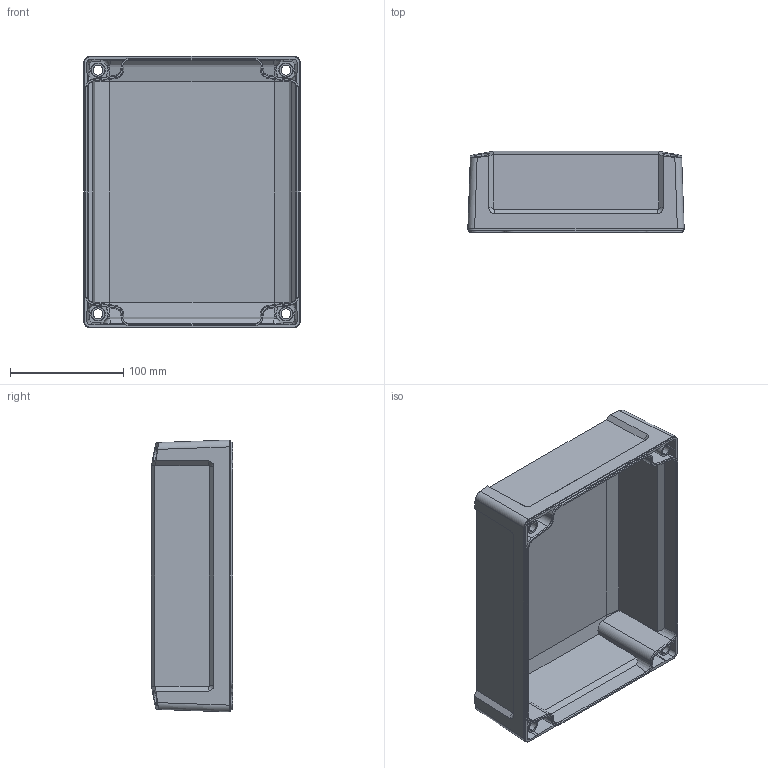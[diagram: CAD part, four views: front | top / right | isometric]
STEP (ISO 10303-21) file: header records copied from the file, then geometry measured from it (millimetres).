
FILE_DESCRIPTION (( 'STEP AP214' ), '1' );
FILE_NAME ('FIBOX TEMPO 2419 H Cover.STEP', '2017-06-21T08:13:31', ( '' ), ( '' ), 'SwSTEP 2.0', 'SolidWorks 2015', '' );
FILE_SCHEMA (( 'AUTOMOTIVE_DESIGN' ));
Length unit declared in the file: millimetre
Products named in the file (1): FIBOX TEMPO 2419 H Cover
Bounding box: 190.9 x 71.5 x 239.9 mm (x, y, z)
Volume: 346375.9 mm3; surface area: 229403 mm2
Topology: 1 solids, 1 shells, 269 faces, 740 edges, 484 vertices
Faces by surface type: plane 141, cone 88, bspline 24, cylinder 16
Entity records: 10005 total; most frequent: CARTESIAN_POINT 3535, ORIENTED_EDGE 1480, DIRECTION 1160, EDGE_CURVE 740, VERTEX_POINT 484, VECTOR 396, LINE 396, AXIS2_PLACEMENT_3D 382
